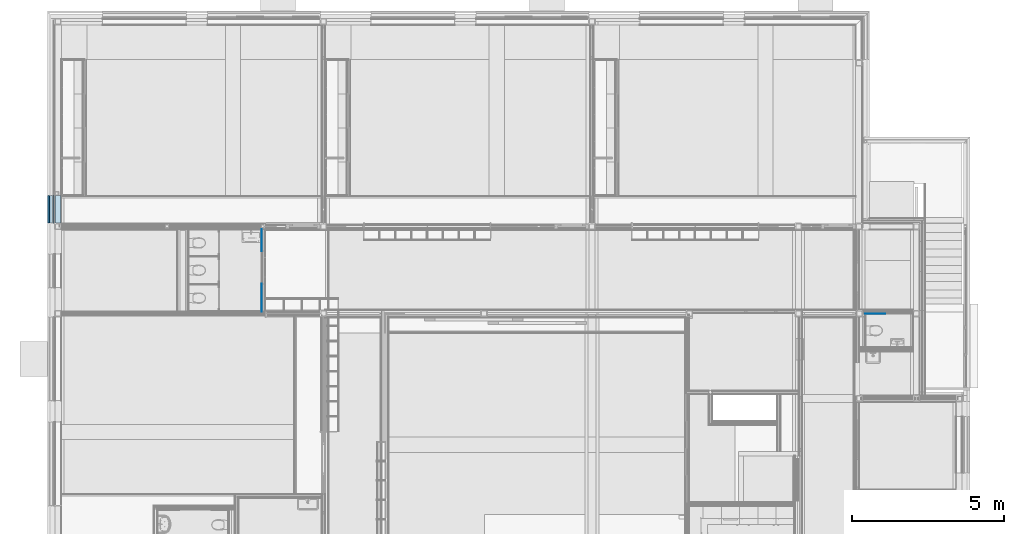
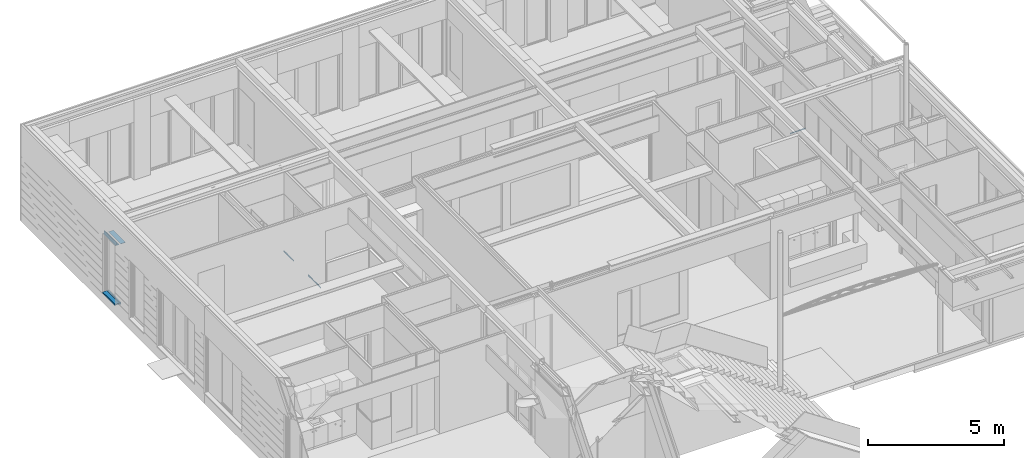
# One storey, part 100 of 165: 8 building element parts, 6 elements without a shape of their own.
"""IFC2X3 building model written with IfcOpenShell, lengths in millimetres."""

from ifc_helpers import new_model, entity, si_unit, converted_unit, derived_unit, money_unit, direction, frame, origin_with_axes, place, context, subcontext, project, spatial, faceted_brep, material, type_object, element, aggregate, save


model = new_model("IFC2X3")

# Units and contexts
model_context = context("Model", 3, precision=0.01, world=origin_with_axes(), true_north=direction((0.0, 1.0)))
body_context = subcontext(model_context, "Body", "Model", "MODEL_VIEW")
ifc_project = project(units=[si_unit("LENGTHUNIT", "METRE", prefix="MILLI"), si_unit("AREAUNIT", "SQUARE_METRE"), si_unit("VOLUMEUNIT", "CUBIC_METRE"), converted_unit("PLANEANGLEUNIT", "DEGREE", entity("IfcPlaneAngleMeasure", 0.0174532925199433), si_unit("PLANEANGLEUNIT", "RADIAN"), dimensions=[0, 0, 0, 0, 0, 0, 0]), money_unit("EUR"), converted_unit("TIMEUNIT", "Year", entity("IfcTimeMeasure", 31556926.0), si_unit("TIMEUNIT", "SECOND"), dimensions=[0, 0, 1, 0, 0, 0, 0]), si_unit("MASSUNIT", "GRAM", prefix="KILO"), si_unit("THERMODYNAMICTEMPERATUREUNIT", "DEGREE_CELSIUS"), si_unit("LUMINOUSINTENSITYUNIT", "LUMEN"), si_unit("ENERGYUNIT", "JOULE", prefix="MEGA"), derived_unit("THERMALCONDUCTANCEUNIT", [(si_unit("POWERUNIT", "WATT"), 1), (si_unit("LENGTHUNIT", "METRE"), -1), (si_unit("THERMODYNAMICTEMPERATUREUNIT", "KELVIN"), -1)]), derived_unit("SPECIFICHEATCAPACITYUNIT", [(si_unit("ENERGYUNIT", "JOULE"), 1), (si_unit("MASSUNIT", "GRAM", prefix="KILO"), -1), (si_unit("THERMODYNAMICTEMPERATUREUNIT", "KELVIN"), -1)]), derived_unit("MASSDENSITYUNIT", [(si_unit("MASSUNIT", "GRAM", prefix="KILO"), 1), (si_unit("VOLUMEUNIT", "CUBIC_METRE"), -1)])], contexts=[model_context])

# Site, building, storey
site_placement = place(None, origin_with_axes())
site = spatial("IfcSite", under=ifc_project, at=site_placement, Name="Site", CompositionType="ELEMENT")
building_placement = place(site_placement, origin_with_axes())
building = spatial("IfcBuilding", under=site, at=building_placement, Name="Naam gebouw", CompositionType="ELEMENT")
storey_placement = place(building_placement, origin_with_axes())
storey = spatial("IfcBuildingStorey", under=building, at=storey_placement, Name="Begane grond", CompositionType="ELEMENT", Elevation=0.0)

# Beam, building element parts
beam_type_1 = type_object("IfcBeamType", Name="41 Latei/geveldrager 158 x 112", PredefinedType="BEAM")
beam_1_placement = place(storey_placement, frame((-179.9999999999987, 22429.99984707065, 2610.0), z_axis=(0.0, 0.0, 1.0), x_axis=(1.0, 0.0, 0.0)))
beam_1 = element("IfcBeam", 1, at=beam_1_placement, inside=storey, type_object=beam_type_1, Name="_Regenwaterafvoer-x", ObjectType="BEAM")
ifc_material_1 = material(Name="Metaal - Staal C")
building_element_part_1_placement = place(beam_1_placement, origin_with_axes())
building_element_part_1 = element("IfcBuildingElementPart", 2, at=building_element_part_1_placement, material=ifc_material_1, Name="Metaal - Staal C", context=body_context, shape_type="Brep", body=[
    faceted_brep([(-49.99999999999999, 919.9999999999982, 6.55651533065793e-07), (-49.99999999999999, 919.9999999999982, -3.000000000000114), (-49.99999999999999, 0.0, -3.000000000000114), (-49.99999999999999, 0.0, 6.55651533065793e-07), (-5.960468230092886e-08, 919.9999999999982, 6.55651533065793e-07), (-5.960468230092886e-08, 919.9999999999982, 99.3417707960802), (16.54654975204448, 919.9999999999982, 108.894926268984), (18.04655007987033, 919.9999999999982, 106.296849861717), (3.000000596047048, 919.9999999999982, 96.99999988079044), (3.000000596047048, 919.9999999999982, 6.55651533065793e-07), (3.000000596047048, 919.9999999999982, -3.000000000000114), (3.000000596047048, 0.0, -3.000000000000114), (3.000000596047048, 0.0, 6.55651533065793e-07), (3.000000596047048, 0.0, 96.99999988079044), (18.04655007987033, 0.0, 106.296849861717), (16.54654975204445, 0.0, 108.894926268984), (-5.960468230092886e-08, 0.0, 99.3417707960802), (-5.960468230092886e-08, 0.0, 6.55651533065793e-07)], [[[0, 1, 2, 3]], [[0, 4, 5, 6, 7, 8, 9, 10, 1]], [[1, 10, 11, 2]], [[3, 2, 11, 12, 13, 14, 15, 16, 17]], [[4, 0, 3, 17]], [[5, 4, 17, 16]], [[6, 5, 16, 15]], [[7, 6, 15, 14]], [[8, 7, 14, 13]], [[9, 8, 13, 12]], [[10, 9, 12, 11]]]),
])
building_element_part_2_placement = place(beam_1_placement, origin_with_axes())
building_element_part_2 = element("IfcBuildingElementPart", 3, at=building_element_part_2_placement, material=ifc_material_1, Name="Metaal - Staal C", context=body_context, shape_type="Brep", body=[
    faceted_brep([(3.00000000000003, 919.9999999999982, -3.000000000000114), (108.0000000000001, 919.9999999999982, -3.000000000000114), (108.0, 0.0, -3.000000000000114), (3.000000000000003, 0.0, -3.000000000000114), (3.00000000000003, 919.9999999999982, 0.0), (108.0000000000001, 919.9999999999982, 0.0), (108.0, 0.0, 0.0), (3.000000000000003, 0.0, 0.0)], [[[0, 1, 2, 3]], [[0, 4, 5, 1]], [[1, 5, 6, 2]], [[3, 2, 6, 7]], [[4, 0, 3, 7]], [[5, 4, 7, 6]]]),
])
aggregate(beam_1, [building_element_part_1, building_element_part_2])

beam_type_2 = type_object("IfcBeamType", Name="31 Betondorpel 250 x 90", PredefinedType="BEAM")
beam_2_placement = place(storey_placement, frame((-249.999999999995, 22429.99984707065, -100.0000000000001), z_axis=(0.0, 0.0, 1.0), x_axis=(1.0, 0.0, 0.0)))
beam_2 = element("IfcBeam", 4, at=beam_2_placement, inside=storey, type_object=beam_type_2, Name="_Regenwaterafvoer-x", ObjectType="BEAM")
ifc_material_2 = material(Name="Beton gewapend prefab")
building_element_part_3_placement = place(beam_2_placement, origin_with_axes())
building_element_part_3 = element("IfcBuildingElementPart", 5, at=building_element_part_3_placement, material=ifc_material_2, Name="Beton gewapend prefab", context=body_context, shape_type="Brep", body=[
    faceted_brep([(0.0, 919.9999999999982, 30.04212834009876), (170.0, 919.9999999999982, 30.04212834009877), (170.0, 0.0, 30.04212834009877), (0.0, 0.0, 30.04212834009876), (0.0, 919.9999999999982, 80.04212834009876), (170.0, 919.9999999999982, 90.04212834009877), (170.0, 919.9999999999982, 90.00000000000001), (170.0, 0.0, 90.00000000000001), (170.0, 0.0, 90.04212834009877), (0.0, 0.0, 80.04212834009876)], [[[0, 1, 2, 3]], [[0, 4, 5, 6, 1]], [[1, 6, 7, 2]], [[3, 2, 7, 8, 9]], [[4, 0, 3, 9]], [[5, 4, 9, 8]], [[6, 5, 8, 7]]]),
])
ifc_material_3 = material(Name="Isolatie - Kunststof hard")
building_element_part_4_placement = place(beam_2_placement, origin_with_axes())
building_element_part_4 = element("IfcBuildingElementPart", 6, at=building_element_part_4_placement, material=ifc_material_3, Name="Isolatie - Kunststof hard", context=body_context, shape_type="Brep", body=[
    faceted_brep([(200.0, 919.9999999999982, 0.0), (250.0, 919.9999999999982, 0.0), (250.0, 0.0, 0.0), (200.0, 0.0, 0.0), (200.0, 919.9999999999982, 30.04212815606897), (200.0, 919.9999999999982, 90.00000000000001), (250.0, 919.9999999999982, 90.00000000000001), (250.0, 0.0, 90.00000000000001), (200.0, 0.0, 90.00000000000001), (200.0, 0.0, 30.04212815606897)], [[[0, 1, 2, 3]], [[0, 4, 5, 6, 1]], [[1, 6, 7, 2]], [[3, 2, 7, 8, 9]], [[4, 0, 3, 9]], [[5, 4, 9, 8]], [[6, 5, 8, 7]]]),
])
aggregate(beam_2, [building_element_part_3, building_element_part_4])

# Proxy, building element part
building_element_proxy_type = type_object("IfcBuildingElementProxyType", Name="42 Tegelwerk 2600+ 12 x 2600", PredefinedType="NOTDEFINED")
proxy_1_placement = place(storey_placement, frame((27355.99997968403, 19430.0003938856, 0.0), z_axis=(0.0, 0.0, 1.0), x_axis=(-1.0, 0.0, 0.0)))
proxy_1 = element("IfcBuildingElementProxy", 7, at=proxy_1_placement, inside=storey, type_object=building_element_proxy_type, Name="_Wand-x")
ifc_material_4 = material(Name="48 vloeivloer Bolidt")
building_element_part_5_placement = place(proxy_1_placement, origin_with_axes())
building_element_part_5 = element("IfcBuildingElementPart", 8, at=building_element_part_5_placement, material=ifc_material_4, Name="48 vloeivloer Bolidt", context=body_context, shape_type="Brep", body=[
    faceted_brep([(644.9999915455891, -19.99998360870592, 0.0), (644.9999915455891, -19.99998360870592, 50.00000596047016), (0.0, -19.99998360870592, 50.00000596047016), (0.0, -19.99998360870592, 0.0), (644.9999915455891, -14.99999850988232, 0.0), (644.9999915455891, -14.99999850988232, 50.00000596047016), (0.0, -14.99999850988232, 50.00000596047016), (0.0, -14.99999850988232, 0.0)], [[[0, 1, 2, 3]], [[1, 0, 4, 5]], [[1, 5, 6, 2]], [[6, 7, 3, 2]], [[4, 0, 3, 7]], [[5, 4, 7, 6]]]),
])
aggregate(proxy_1, [building_element_part_5])

proxy_2_placement = place(storey_placement, frame((6795.000065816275, 21509.97621853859, 0.0), z_axis=(0.0, 0.0, 1.0), x_axis=(0.0, 1.0, 0.0)))
proxy_2 = element("IfcBuildingElementProxy", 9, at=proxy_2_placement, inside=storey, type_object=building_element_proxy_type, Name="_Wand-x")
building_element_part_6_placement = place(proxy_2_placement, origin_with_axes())
building_element_part_6 = element("IfcBuildingElementPart", 10, at=building_element_part_6_placement, material=ifc_material_4, Name="48 vloeivloer Bolidt", context=body_context, shape_type="Brep", body=[
    faceted_brep([(720.0181890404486, -19.99998360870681, 0.0), (720.0181890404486, -19.99998360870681, 50.00000596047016), (0.0, -19.99998360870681, 50.00000596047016), (0.0, -19.99998360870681, 0.0), (720.0181757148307, -14.99999850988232, 0.0), (720.0181757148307, -14.99999850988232, 50.00000596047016), (0.0, -14.99999850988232, 50.00000596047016), (0.0, -14.99999850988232, 0.0)], [[[0, 1, 2, 3]], [[1, 0, 4, 5]], [[1, 5, 6, 2]], [[6, 7, 3, 2]], [[4, 0, 3, 7]], [[5, 4, 7, 6]]]),
])
aggregate(proxy_2, [building_element_part_6])

proxy_3_placement = place(storey_placement, frame((6795.000053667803, 19532.4998112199, 0.0), z_axis=(0.0, 0.0, 1.0), x_axis=(0.0, 1.0, 0.0)))
proxy_3 = element("IfcBuildingElementProxy", 11, at=proxy_3_placement, inside=storey, type_object=building_element_proxy_type, Name="_Wand-x")
building_element_part_7_placement = place(proxy_3_placement, origin_with_axes())
building_element_part_7 = element("IfcBuildingElementPart", 12, at=building_element_part_7_placement, material=ifc_material_4, Name="48 vloeivloer Bolidt", context=body_context, shape_type="Brep", body=[
    faceted_brep([(-14.99999850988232, -14.99999850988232, 50.00000596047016), (-14.99999850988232, -19.99998360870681, 50.00000596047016), (897.4764073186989, -19.99998360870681, 50.00000596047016), (897.4764073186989, -14.99999850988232, 50.00000596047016), (-14.99999850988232, -19.99998360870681, 0.0), (-14.99999850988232, -14.99999850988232, 0.0), (897.4764073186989, -19.99998360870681, 0.0), (897.4764073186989, -14.99999850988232, 0.0)], [[[0, 1, 2, 3]], [[4, 1, 0, 5]], [[1, 4, 6, 2]], [[2, 6, 7, 3]], [[5, 0, 3, 7]], [[4, 5, 7, 6]]]),
])
aggregate(proxy_3, [building_element_part_7])

# Beam, building element part
beam_type_3 = type_object("IfcBeamType", Name="31 HSB boven kozijnen 214 x 1000", PredefinedType="BEAM")
beam_3_placement = place(storey_placement, frame((214.0000000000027, 22439.99984707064, 2600.000000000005), z_axis=(0.0, 0.0, 1.0), x_axis=(1.0, 0.0, 0.0)))
beam_3 = element("IfcBeam", 13, at=beam_3_placement, inside=storey, type_object=beam_type_3, Name="28_Balk-x", ObjectType="BEAM")
ifc_material_5 = material(Name="Gipsplaat")
building_element_part_8_placement = place(beam_3_placement, origin_with_axes())
building_element_part_8 = element("IfcBuildingElementPart", 14, at=building_element_part_8_placement, material=ifc_material_5, Name="Gipsplaat", context=body_context, shape_type="Brep", body=[
    faceted_brep([(-214.0000025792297, 899.9999999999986, 12.00000596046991), (-214.0000025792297, 899.9999999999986, 0.0), (-214.0000025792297, 0.0, 0.0), (-214.0000025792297, 0.0, 12.00000596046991), (-11.99999661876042, 899.9999999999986, 12.00000596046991), (-11.99999661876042, 899.9999999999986, 0.0), (-11.99999661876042, 0.0, 0.0), (-11.99999661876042, 0.0, 12.00000596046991)], [[[0, 1, 2, 3]], [[0, 4, 5, 1]], [[1, 5, 6, 2]], [[3, 2, 6, 7]], [[4, 0, 3, 7]], [[5, 4, 7, 6]]]),
])
aggregate(beam_3, [building_element_part_8])

save(model, "model.ifc")
